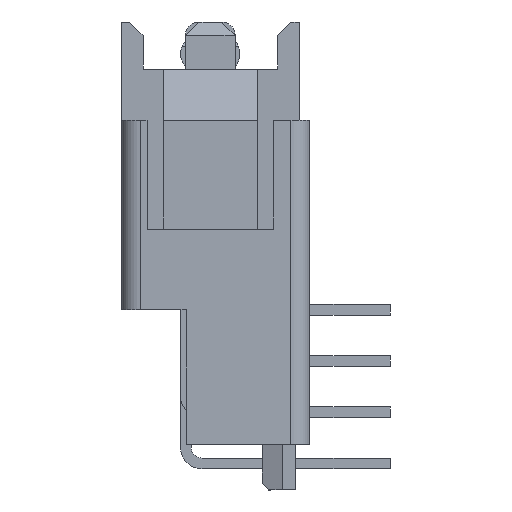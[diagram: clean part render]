
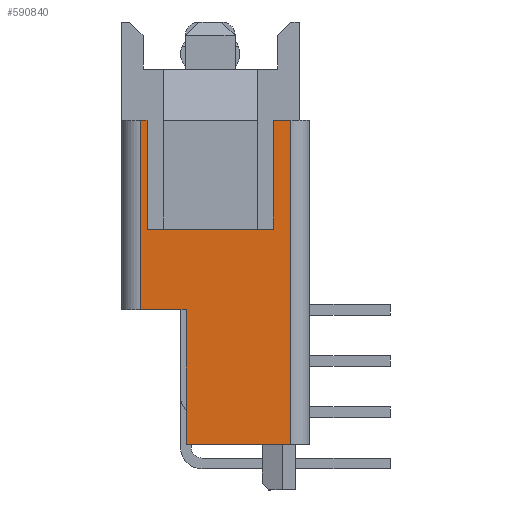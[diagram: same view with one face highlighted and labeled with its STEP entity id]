
A CAD part, left-side view. The second image highlights one B-rep face of the part: STEP entity #590840.
In plain terms, the highlighted planar face has unit normal (-1, 0, 0).
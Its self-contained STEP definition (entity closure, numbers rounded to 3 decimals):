
#1240=CARTESIAN_POINT('',(-61.69,12.236,0.));
#1250=VERTEX_POINT('',#1240);
#1280=CARTESIAN_POINT('',(-61.69,13.936,0.));
#1290=DIRECTION('',(0.,-1.,0.));
#1300=VECTOR('',#1290,1.);
#1310=LINE('',#1280,#1300);
#1320=CARTESIAN_POINT('',(-61.69,8.336,0.));
#1330=VERTEX_POINT('',#1320);
#1340=EDGE_CURVE('',#1250,#1330,#1310,.T.);
#127840=CARTESIAN_POINT('',(-61.69,13.936,5.));
#127850=VERTEX_POINT('',#127840);
#127880=CARTESIAN_POINT('',(-61.69,0.,5.));
#127890=DIRECTION('',(0.,1.,0.));
#127900=VECTOR('',#127890,1.);
#127910=LINE('',#127880,#127900);
#127920=CARTESIAN_POINT('',(-61.69,12.236,5.));
#127930=VERTEX_POINT('',#127920);
#127940=EDGE_CURVE('',#127930,#127850,#127910,.T.);
#307370=CARTESIAN_POINT('',(-61.69,13.936,12.05));
#307380=VERTEX_POINT('',#307370);
#307410=CARTESIAN_POINT('',(-61.69,13.936,0.));
#307420=DIRECTION('',(0.,0.,1.));
#307430=VECTOR('',#307420,1.);
#307440=LINE('',#307410,#307430);
#307450=EDGE_CURVE('',#127850,#307380,#307440,.T.);
#351050=CARTESIAN_POINT('',(-61.69,8.986,12.05));
#351060=VERTEX_POINT('',#351050);
#351090=CARTESIAN_POINT('',(-61.69,8.986,0.));
#351100=DIRECTION('',(0.,0.,1.));
#351110=VECTOR('',#351100,1.);
#351120=LINE('',#351090,#351110);
#351130=CARTESIAN_POINT('',(-61.69,8.986,
8.));
#351140=VERTEX_POINT('',#351130);
#351150=EDGE_CURVE('',#351140,#351060,#351120,.T.);
#456530=CARTESIAN_POINT('',(-61.69,8.336,0.));
#456540=DIRECTION('',(0.,0.,1.));
#456550=VECTOR('',#456540,1.);
#456560=LINE('',#456530,#456550);
#456570=CARTESIAN_POINT('',(-61.69,8.336,12.05));
#456580=VERTEX_POINT('',#456570);
#456590=EDGE_CURVE('',#1330,#456580,#456560,.T.);
#510870=CARTESIAN_POINT('',(-61.69,0.,8.));
#510880=DIRECTION('',(0.,1.,0.));
#510890=VECTOR('',#510880,1.);
#510900=LINE('',#510870,#510890);
#510910=CARTESIAN_POINT('',(-61.69,13.686,
8.));
#510920=VERTEX_POINT('',#510910);
#510930=EDGE_CURVE('',#351140,#510920,#510900,.T.);
#590450=CARTESIAN_POINT('',(-61.69,8.336,0.));
#590460=DIRECTION('',(-1.,0.,0.));
#590470=DIRECTION('',(0.,1.,0.));
#590480=AXIS2_PLACEMENT_3D('',#590450,#590460,#590470);
#590490=PLANE('',#590480);
#590500=CARTESIAN_POINT('',(-61.69,12.236,0.));
#590510=DIRECTION('',(0.,0.,-1.));
#590520=VECTOR('',#590510,1.);
#590530=LINE('',#590500,#590520);
#590540=EDGE_CURVE('',#127930,#1250,#590530,.T.);
#590550=ORIENTED_EDGE('',*,*,#590540,.T.);
#590560=ORIENTED_EDGE('',*,*,#127940,.F.);
#590570=ORIENTED_EDGE('',*,*,#307450,.F.);
#590580=CARTESIAN_POINT('',(-61.69,13.936,12.05));
#590590=DIRECTION('',(0.,-1.,0.));
#590600=VECTOR('',#590590,1.);
#590610=LINE('',#590580,#590600);
#590620=CARTESIAN_POINT('',(-61.69,13.686,12.05));
#590630=VERTEX_POINT('',#590620);
#590640=EDGE_CURVE('',#307380,#590630,#590610,.T.);
#590650=ORIENTED_EDGE('',*,*,#590640,.F.);
#590660=CARTESIAN_POINT('',(-61.69,13.686,11.55));
#590670=DIRECTION('',(0.,0.,1.));
#590680=VECTOR('',#590670,1.);
#590690=LINE('',#590660,#590680);
#590700=EDGE_CURVE('',#510920,#590630,#590690,.T.);
#590710=ORIENTED_EDGE('',*,*,#590700,.T.);
#590720=ORIENTED_EDGE('',*,*,#510930,.T.);
#590730=ORIENTED_EDGE('',*,*,#351150,.F.);
#590740=CARTESIAN_POINT('',(-61.69,0.,12.05));
#590750=DIRECTION('',(0.,1.,0.));
#590760=VECTOR('',#590750,1.);
#590770=LINE('',#590740,#590760);
#590780=EDGE_CURVE('',#456580,#351060,#590770,.T.);
#590790=ORIENTED_EDGE('',*,*,#590780,.T.);
#590800=ORIENTED_EDGE('',*,*,#456590,.T.);
#590810=ORIENTED_EDGE('',*,*,#1340,.T.);
#590820=EDGE_LOOP('',(#590810,#590800,#590790,#590730,#590720,#590710,
#590650,#590570,#590560,#590550));
#590830=FACE_OUTER_BOUND('',#590820,.T.);
#590840=ADVANCED_FACE('',(#590830),#590490,.T.);
